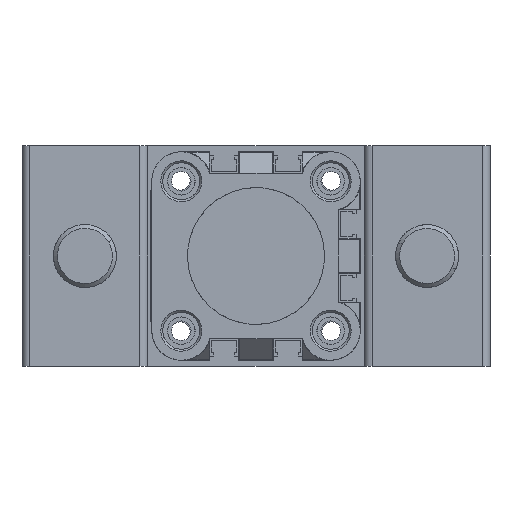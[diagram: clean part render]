
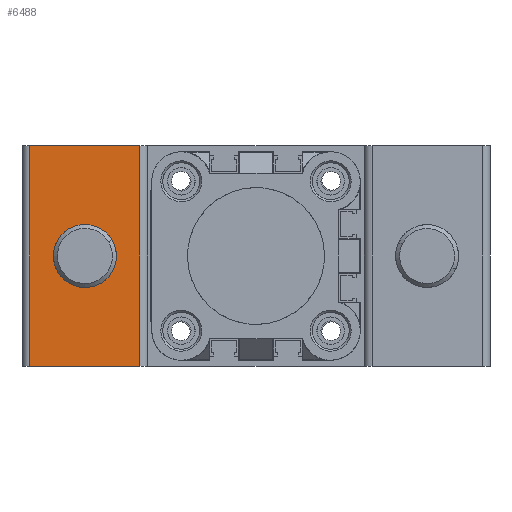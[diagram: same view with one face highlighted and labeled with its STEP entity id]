
A CAD part, front view. The second image highlights one B-rep face of the part: STEP entity #6488.
In plain terms, the highlighted planar face has unit normal (0, -1, 0).
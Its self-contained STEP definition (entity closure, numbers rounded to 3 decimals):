
#151 = CARTESIAN_POINT ( 'NONE',  ( 30., -134., 56. ) ) ;
#236 = EDGE_LOOP ( 'NONE', ( #10798, #5076, #594, #9180 ) ) ;
#457 = EDGE_CURVE ( 'NONE', #19728, #23239, #19597, .T. ) ;
#537 = CARTESIAN_POINT ( 'NONE',  ( 2., -134., 56. ) ) ;
#594 = ORIENTED_EDGE ( 'NONE', *, *, #27727, .T. ) ;
#704 = VECTOR ( 'NONE', #15592, 1000. ) ;
#840 = VERTEX_POINT ( 'NONE', #23154 ) ;
#1698 = VERTEX_POINT ( 'NONE', #9722 ) ;
#2351 = CARTESIAN_POINT ( 'NONE',  ( 16., -134., 28. ) ) ;
#2371 = VECTOR ( 'NONE', #20691, 1000. ) ;
#3423 = CIRCLE ( 'NONE', #20061, 8. ) ;
#4572 = EDGE_CURVE ( 'NONE', #32061, #21740, #3423, .T. ) ;
#4874 = DIRECTION ( 'NONE',  ( 1., 0., 0. ) ) ;
#5076 = ORIENTED_EDGE ( 'NONE', *, *, #457, .F. ) ;
#5351 = CARTESIAN_POINT ( 'NONE',  ( 30., -134., 56. ) ) ;
#5748 = CARTESIAN_POINT ( 'NONE',  ( 30., -134., 0. ) ) ;
#5975 = CARTESIAN_POINT ( 'NONE',  ( 30., -134., 56. ) ) ;
#6488 = ADVANCED_FACE ( 'NONE', ( #15933, #16717 ), #25647, .T. ) ;
#6571 = DIRECTION ( 'NONE',  ( 0., -1., 0. ) ) ;
#9180 = ORIENTED_EDGE ( 'NONE', *, *, #15478, .T. ) ;
#9722 = CARTESIAN_POINT ( 'NONE',  ( 2., -134., 56. ) ) ;
#9771 = LINE ( 'NONE', #25991, #28350 ) ;
#10548 = DIRECTION ( 'NONE',  ( 0., -1., 0. ) ) ;
#10798 = ORIENTED_EDGE ( 'NONE', *, *, #17266, .F. ) ;
#12304 = CARTESIAN_POINT ( 'NONE',  ( 16., -134., 20. ) ) ;
#12986 = EDGE_LOOP ( 'NONE', ( #21079, #25635 ) ) ;
#15478 = EDGE_CURVE ( 'NONE', #1698, #840, #15776, .T. ) ;
#15592 = DIRECTION ( 'NONE',  ( -1., 0., 0. ) ) ;
#15776 = LINE ( 'NONE', #537, #2371 ) ;
#15933 = FACE_BOUND ( 'NONE', #12986, .T. ) ;
#16717 = FACE_OUTER_BOUND ( 'NONE', #236, .T. ) ;
#17266 = EDGE_CURVE ( 'NONE', #23239, #840, #9771, .T. ) ;
#18642 = DIRECTION ( 'NONE',  ( 0., 0., -1. ) ) ;
#19597 = LINE ( 'NONE', #5975, #30670 ) ;
#19728 = VERTEX_POINT ( 'NONE', #151 ) ;
#19734 = AXIS2_PLACEMENT_3D ( 'NONE', #2351, #19971, #4874 ) ;
#19971 = DIRECTION ( 'NONE',  ( 0., -1., 0. ) ) ;
#20061 = AXIS2_PLACEMENT_3D ( 'NONE', #21673, #6571, #24242 ) ;
#20691 = DIRECTION ( 'NONE',  ( 0., 0., -1. ) ) ;
#20733 = EDGE_CURVE ( 'NONE', #21740, #32061, #25379, .T. ) ;
#21079 = ORIENTED_EDGE ( 'NONE', *, *, #20733, .F. ) ;
#21673 = CARTESIAN_POINT ( 'NONE',  ( 16., -134., 28. ) ) ;
#21740 = VERTEX_POINT ( 'NONE', #22875 ) ;
#22367 = LINE ( 'NONE', #25636, #704 ) ;
#22875 = CARTESIAN_POINT ( 'NONE',  ( 16., -134., 36. ) ) ;
#23154 = CARTESIAN_POINT ( 'NONE',  ( 2., -134., 0. ) ) ;
#23239 = VERTEX_POINT ( 'NONE', #5748 ) ;
#23464 = DIRECTION ( 'NONE',  ( -1., 0., 0. ) ) ;
#24242 = DIRECTION ( 'NONE',  ( 1., 0., 0. ) ) ;
#25379 = CIRCLE ( 'NONE', #19734, 8. ) ;
#25635 = ORIENTED_EDGE ( 'NONE', *, *, #4572, .F. ) ;
#25636 = CARTESIAN_POINT ( 'NONE',  ( 30., -134., 56. ) ) ;
#25647 = PLANE ( 'NONE',  #25853 ) ;
#25853 = AXIS2_PLACEMENT_3D ( 'NONE', #5351, #10548, #28204 ) ;
#25991 = CARTESIAN_POINT ( 'NONE',  ( 30., -134., 0. ) ) ;
#27727 = EDGE_CURVE ( 'NONE', #19728, #1698, #22367, .T. ) ;
#28204 = DIRECTION ( 'NONE',  ( 1., 0., 0. ) ) ;
#28350 = VECTOR ( 'NONE', #23464, 1000. ) ;
#30670 = VECTOR ( 'NONE', #18642, 1000. ) ;
#32061 = VERTEX_POINT ( 'NONE', #12304 ) ;
